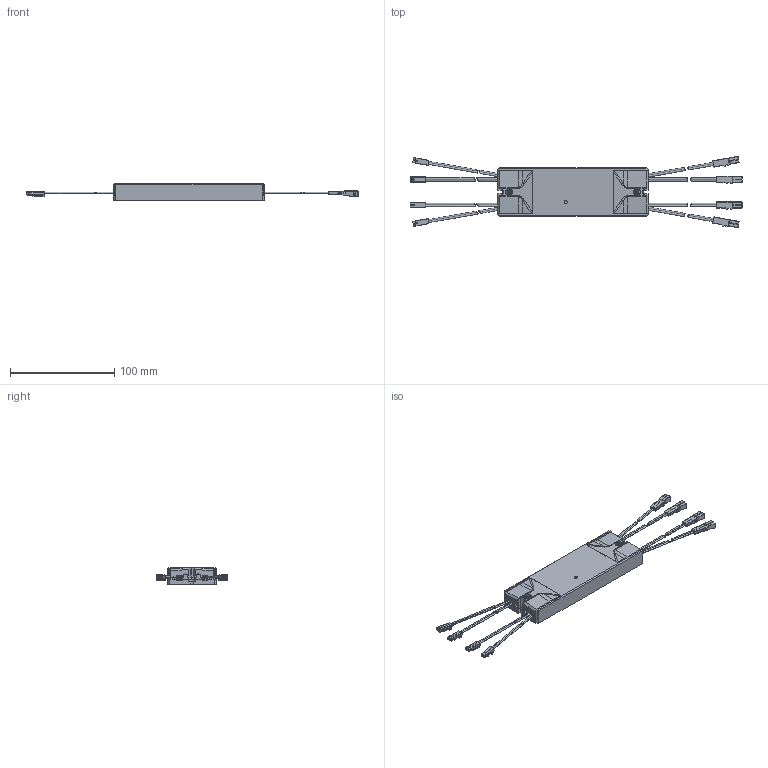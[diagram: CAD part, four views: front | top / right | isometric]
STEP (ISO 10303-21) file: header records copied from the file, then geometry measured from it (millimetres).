
FILE_DESCRIPTION (( 'STEP AP203' ), '1' );
FILE_NAME ('Smartempfänger_12VDC_4-Kanal_24.STEP', '2024-12-02T09:50:51', ( '' ), ( '' ), 'SwSTEP 2.0', 'SolidWorks 2023', '' );
FILE_SCHEMA (( 'CONFIG_CONTROL_DESIGN' ));
Length unit declared in the file: millimetre
Products named in the file (6): Blechschraube_3,0x10; LED_Buchse_2019_ohne_AEH; 2588501_25.885.01 - schwarz; LED_Stecker_2019_ohne_AEH; Smartempfänger_12VDC_4-Kanal_24; 3110101_ohne Endkappen
Assembly tree (13 placements, depth 2):
  Smartempfänger_12VDC_4-Kanal_24
    3110101_ohne Endkappen
    LED_Stecker_2019_ohne_AEH  x4
    LED_Buchse_2019_ohne_AEH  x4
    Blechschraube_3,0x10  x2
    2588501_25.885.01 - schwarz  x2
Bounding box: 319.2 x 68.45 x 16 mm (x, y, z)
Volume: 89143.7 mm3; surface area: 49887.7 mm2
Topology: 45 solids, 45 shells, 2426 faces, 6012 edges, 3458 vertices
Faces by surface type: plane 1140, cylinder 826, sphere 188, torus 180, bspline 76, cone 16
Entity records: 28275 total; most frequent: CARTESIAN_POINT 6889, ORIENTED_EDGE 4360, DIRECTION 4197, EDGE_CURVE 2180, VECTOR 1569, LINE 1569, VERTEX_POINT 1341, AXIS2_PLACEMENT_3D 1314
